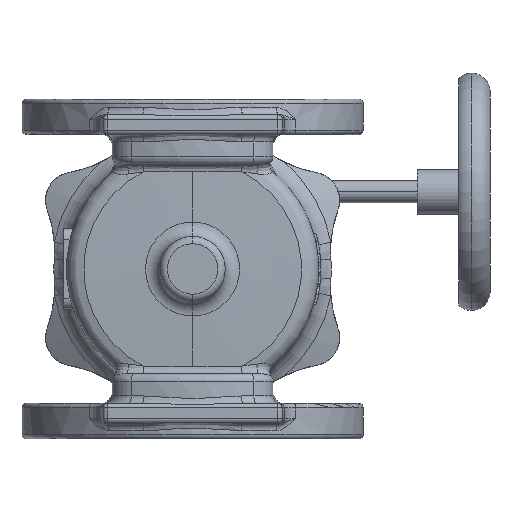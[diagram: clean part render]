
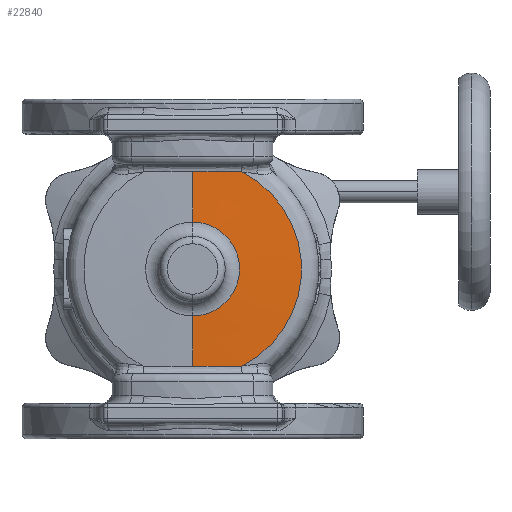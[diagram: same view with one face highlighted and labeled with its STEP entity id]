
A CAD part, front view. The second image highlights one B-rep face of the part: STEP entity #22840.
In plain terms, the highlighted conical face has half-angle 88 degrees and reference radius 85 mm.
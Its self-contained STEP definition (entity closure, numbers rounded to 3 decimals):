
#63 = CARTESIAN_POINT ( 'NONE',  ( 0., -97.163, 31.651 ) ) ;
#75 = EDGE_CURVE ( 'NONE', #18257, #29816, #26393, .T. ) ;
#782 = CARTESIAN_POINT ( 'NONE',  ( 22.185, -95.88, 65.434 ) ) ;
#909 = AXIS2_PLACEMENT_3D ( 'NONE', #16228, #33066, #21719 ) ;
#1010 = LINE ( 'NONE', #1550, #11878 ) ;
#1262 = CARTESIAN_POINT ( 'NONE',  ( 33.277, -95.704, -65.444 ) ) ;
#1550 = CARTESIAN_POINT ( 'NONE',  ( 0., -95.3, 85. ) ) ;
#1688 = ORIENTED_EDGE ( 'NONE', *, *, #75, .T. ) ;
#1870 = EDGE_CURVE ( 'Defeatured_0_483+Defeatured_0_510+Defeatured_0_435+Defeatured_0_434', #8145, #32905, #16677, .T. ) ;
#2889 = VECTOR ( 'NONE', #34077, 1000. ) ;
#3215 = CARTESIAN_POINT ( 'NONE',  ( 0., -95.984, -65.426 ) ) ;
#3490 = EDGE_CURVE ( 'Defeatured_0_483+Defeatured_0_435+Defeatured_0_585+Defeatured_0_510', #29816, #8145, #10260, .T. ) ;
#5014 = EDGE_CURVE ( 'Defeatured_0_483+Defeatured_0_434+Defeatured_0_510+Defeatured_0_585', #32905, #21117, #31118, .T. ) ;
#5627 = ORIENTED_EDGE ( 'NONE', *, *, #3490, .T. ) ;
#6658 = DIRECTION ( 'NONE',  ( 0., 0.035, 0.999 ) ) ;
#6804 = ORIENTED_EDGE ( 'NONE', *, *, #10633, .T. ) ;
#7550 = CARTESIAN_POINT ( 'NONE',  ( 33.277, -95.704, 65.444 ) ) ;
#8145 = VERTEX_POINT ( 'NONE', #18905 ) ;
#10260 = B_SPLINE_CURVE_WITH_KNOTS ( 'NONE', 3,
 ( #12960, #12596, #29079, #1262 ),
 .UNSPECIFIED., .F., .F.,
 ( 4, 4 ),
 ( 0.033, 0.067 ),
 .UNSPECIFIED. ) ;
#10633 = EDGE_CURVE ( 'Defeatured_0_483+Defeatured_0_433+Defeatured_0_433+Defeatured_0_433', #12632, #18257, #21878, .T. ) ;
#11878 = VECTOR ( 'NONE', #6658, 1000. ) ;
#12496 = DIRECTION ( 'NONE',  ( 0., 1., 0. ) ) ;
#12596 = CARTESIAN_POINT ( 'NONE',  ( 11.092, -95.984, -65.426 ) ) ;
#12632 = VERTEX_POINT ( 'NONE', #63 ) ;
#12960 = CARTESIAN_POINT ( 'NONE',  ( 0., -95.984, -65.426 ) ) ;
#14133 = CARTESIAN_POINT ( 'NONE',  ( 33.277, -95.704, 65.444 ) ) ;
#14415 = DIRECTION ( 'NONE',  ( 0., 1., 0. ) ) ;
#15950 = CARTESIAN_POINT ( 'NONE',  ( 0., -97.163, 0. ) ) ;
#16228 = CARTESIAN_POINT ( 'NONE',  ( 0., -95.704, 0. ) ) ;
#16677 = CIRCLE ( 'NONE', #909, 73.419 ) ;
#17162 = CARTESIAN_POINT ( 'NONE',  ( 0., -95.3, 0. ) ) ;
#17679 = EDGE_LOOP ( 'NONE', ( #6804, #1688, #5627, #18457, #19659, #22213 ) ) ;
#18257 = VERTEX_POINT ( 'NONE', #27302 ) ;
#18457 = ORIENTED_EDGE ( 'NONE', *, *, #1870, .T. ) ;
#18905 = CARTESIAN_POINT ( 'NONE',  ( 33.277, -95.704, -65.444 ) ) ;
#19659 = ORIENTED_EDGE ( 'NONE', *, *, #5014, .T. ) ;
#19740 = FACE_OUTER_BOUND ( 'NONE', #17679, .T. ) ;
#20283 = DIRECTION ( 'NONE',  ( 0., 0., 1. ) ) ;
#20727 = CARTESIAN_POINT ( 'NONE',  ( 0., -95.3, -85. ) ) ;
#21117 = VERTEX_POINT ( 'NONE', #33943 ) ;
#21719 = DIRECTION ( 'NONE',  ( 0., 0., -1. ) ) ;
#21878 = CIRCLE ( 'NONE', #23023, 31.651 ) ;
#22213 = ORIENTED_EDGE ( 'NONE', *, *, #35503, .F. ) ;
#22840 = ADVANCED_FACE ( 'Defeatured_0_483', ( #19740 ), #32659, .T. ) ;
#23023 = AXIS2_PLACEMENT_3D ( 'NONE', #15950, #12496, #27134 ) ;
#25298 = CARTESIAN_POINT ( 'NONE',  ( 11.092, -95.984, 65.426 ) ) ;
#26393 = LINE ( 'NONE', #20727, #2889 ) ;
#27134 = DIRECTION ( 'NONE',  ( 0., 0., -1. ) ) ;
#27302 = CARTESIAN_POINT ( 'NONE',  ( 0., -97.163, -31.651 ) ) ;
#28235 = CARTESIAN_POINT ( 'NONE',  ( 0., -95.984, 65.426 ) ) ;
#29079 = CARTESIAN_POINT ( 'NONE',  ( 22.185, -95.88, -65.434 ) ) ;
#29816 = VERTEX_POINT ( 'NONE', #3215 ) ;
#31118 = B_SPLINE_CURVE_WITH_KNOTS ( 'NONE', 3,
 ( #14133, #782, #25298, #28235 ),
 .UNSPECIFIED., .F., .F.,
 ( 4, 4 ),
 ( 0., 0.033 ),
 .UNSPECIFIED. ) ;
#32659 = CONICAL_SURFACE ( 'NONE', #34410, 85., 1.536 ) ;
#32905 = VERTEX_POINT ( 'NONE', #7550 ) ;
#33066 = DIRECTION ( 'NONE',  ( 0., -1., 0. ) ) ;
#33943 = CARTESIAN_POINT ( 'NONE',  ( 0., -95.984, 65.426 ) ) ;
#34077 = DIRECTION ( 'NONE',  ( 0., 0.035, -0.999 ) ) ;
#34410 = AXIS2_PLACEMENT_3D ( 'NONE', #17162, #14415, #20283 ) ;
#35503 = EDGE_CURVE ( 'NONE', #12632, #21117, #1010, .T. ) ;
